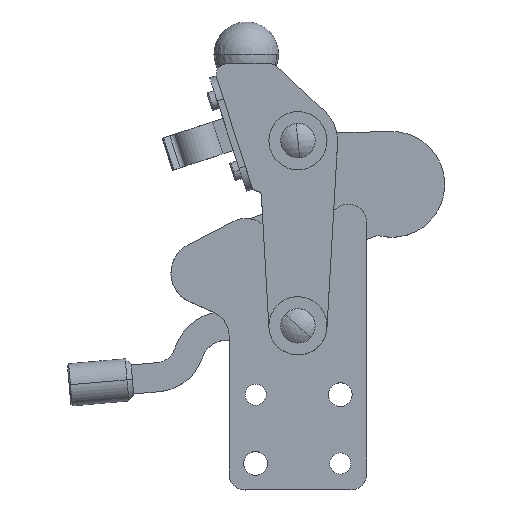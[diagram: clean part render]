
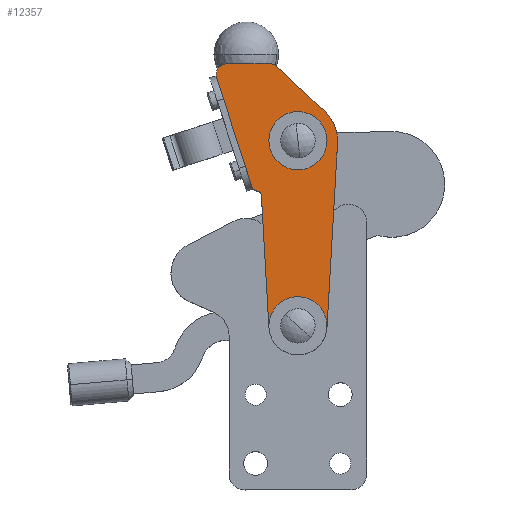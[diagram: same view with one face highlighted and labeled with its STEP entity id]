
A CAD part, top view. The second image highlights one B-rep face of the part: STEP entity #12357.
In plain terms, the highlighted planar face has unit normal (0, 0, 1).
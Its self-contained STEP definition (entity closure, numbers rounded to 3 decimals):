
#7419=CARTESIAN_POINT('',(-64.918,6.535,6.2));
#7420=VERTEX_POINT('',#7419);
#7429=CARTESIAN_POINT('',(-42.918,6.537,6.2));
#7430=VERTEX_POINT('',#7429);
#7431=CARTESIAN_POINT('',(-53.918,6.536,6.2));
#7432=DIRECTION('',(0.,0.,-1.));
#7433=DIRECTION('',(-1.,0.,0.));
#7434=AXIS2_PLACEMENT_3D('',#7431,#7432,#7433);
#7435=CIRCLE('',#7434,11.);
#7436=EDGE_CURVE('',#7430,#7420,#7435,.T.);
#7505=CARTESIAN_POINT('',(-64.893,-62.836,6.2));
#7506=VERTEX_POINT('',#7505);
#7522=CARTESIAN_POINT('',(-42.929,-64.091,6.2));
#7523=VERTEX_POINT('',#7522);
#7530=CARTESIAN_POINT('',(-53.911,-63.464,6.2));
#7531=DIRECTION('',(0.,0.,-1.));
#7532=DIRECTION('',(-0.998,-0.057,0.));
#7533=AXIS2_PLACEMENT_3D('',#7530,#7531,#7532);
#7534=CIRCLE('',#7533,11.);
#7535=EDGE_CURVE('',#7506,#7523,#7534,.T.);
#7562=CARTESIAN_POINT('',(-70.465,-12.084,6.2));
#7563=VERTEX_POINT('',#7562);
#7572=CARTESIAN_POINT('',(-71.192,-11.084,6.2));
#7573=VERTEX_POINT('',#7572);
#7574=CARTESIAN_POINT('',(-69.29,-10.465,6.2));
#7575=DIRECTION('',(0.,0.,-1.0));
#7576=DIRECTION('',(-0.588,-0.809,0.));
#7577=AXIS2_PLACEMENT_3D('',#7574,#7575,#7576);
#7578=CIRCLE('',#7577,2.);
#7579=EDGE_CURVE('',#7563,#7573,#7578,.T.);
#10272=CARTESIAN_POINT('',(-84.642,30.297,6.2));
#10273=VERTEX_POINT('',#10272);
#10274=CARTESIAN_POINT('',(-84.642,30.297,6.2));
#10275=DIRECTION('',(0.309,-0.951,0.));
#10276=VECTOR('',#10275,43.512);
#10277=LINE('',#10274,#10276);
#10278=EDGE_CURVE('',#10273,#7573,#10277,.T.);
#10294=CARTESIAN_POINT('',(-80.838,35.533,6.2));
#10295=VERTEX_POINT('',#10294);
#10296=CARTESIAN_POINT('',(-80.838,31.533,6.2));
#10297=DIRECTION('',(0.,0.,1.0));
#10298=DIRECTION('',(0.951,0.309,0.));
#10299=AXIS2_PLACEMENT_3D('',#10296,#10297,#10298);
#10300=CIRCLE('',#10299,4.0);
#10301=EDGE_CURVE('',#10295,#10273,#10300,.T.);
#11655=CARTESIAN_POINT('',(-69.505,-12.454,6.2));
#11656=VERTEX_POINT('',#11655);
#11657=CARTESIAN_POINT('',(-67.724,-14.329,6.2));
#11658=VERTEX_POINT('',#11657);
#11659=CARTESIAN_POINT('',(-69.72,-14.442,6.2));
#11660=DIRECTION('',(0.,0.,1.));
#11661=DIRECTION('',(-0.998,-0.057,0.));
#11662=AXIS2_PLACEMENT_3D('',#11659,#11660,#11661);
#11663=CIRCLE('',#11662,2.);
#11664=EDGE_CURVE('',#11656,#11658,#11663,.F.);
#11700=CARTESIAN_POINT('',(-64.893,-64.089,6.2));
#11701=VERTEX_POINT('',#11700);
#11708=CARTESIAN_POINT('',(-67.724,-14.329,6.2));
#11709=DIRECTION('',(0.057,-0.998,0.));
#11710=VECTOR('',#11709,49.84);
#11711=LINE('',#11708,#11710);
#11712=EDGE_CURVE('',#11658,#11701,#11711,.T.);
#11729=CARTESIAN_POINT('',(-69.29,-10.465,6.2));
#11730=DIRECTION('',(0.,0.,-1.0));
#11731=DIRECTION('',(-0.588,-0.809,0.));
#11732=AXIS2_PLACEMENT_3D('',#11729,#11730,#11731);
#11733=CIRCLE('',#11732,2.);
#11734=EDGE_CURVE('',#11656,#7563,#11733,.T.);
#11876=CARTESIAN_POINT('',(-38.942,5.68,6.2));
#11877=VERTEX_POINT('',#11876);
#11884=CARTESIAN_POINT('',(-42.929,-64.091,6.2));
#11885=DIRECTION('',(0.057,0.998,0.));
#11886=VECTOR('',#11885,69.886);
#11887=LINE('',#11884,#11886);
#11888=EDGE_CURVE('',#7523,#11877,#11887,.T.);
#12133=CARTESIAN_POINT('',(-61.973,34.719,6.2));
#12134=VERTEX_POINT('',#12133);
#12141=CARTESIAN_POINT('',(-43.636,17.458,6.2));
#12142=VERTEX_POINT('',#12141);
#12143=CARTESIAN_POINT('',(-43.636,17.458,6.2));
#12144=DIRECTION('',(-0.728,0.685,0.));
#12145=VECTOR('',#12144,25.183);
#12146=LINE('',#12143,#12145);
#12147=EDGE_CURVE('',#12142,#12134,#12146,.T.);
#12187=CARTESIAN_POINT('',(-53.918,6.536,6.2));
#12188=DIRECTION('',(0.,0.,1.0));
#12189=DIRECTION('',(-0.685,-0.728,0.));
#12190=AXIS2_PLACEMENT_3D('',#12187,#12188,#12189);
#12191=CIRCLE('',#12190,15.);
#12192=EDGE_CURVE('',#11877,#12142,#12191,.T.);
#12216=CARTESIAN_POINT('',(-53.911,-63.464,6.2));
#12217=DIRECTION('',(0.,0.,-1.));
#12218=DIRECTION('',(-0.998,-0.057,0.));
#12219=AXIS2_PLACEMENT_3D('',#12216,#12217,#12218);
#12220=CIRCLE('',#12219,11.);
#12221=EDGE_CURVE('',#11701,#7506,#12220,.T.);
#12295=CARTESIAN_POINT('',(-53.918,6.536,6.2));
#12296=DIRECTION('',(0.,0.,-1.));
#12297=DIRECTION('',(-1.,0.,0.));
#12298=AXIS2_PLACEMENT_3D('',#12295,#12296,#12297);
#12299=CIRCLE('',#12298,11.);
#12300=EDGE_CURVE('',#7420,#7430,#12299,.T.);
#12320=CARTESIAN_POINT('',(-58.405,-15.867,6.2));
#12321=DIRECTION('',(0.0,0.0,-1.0));
#12322=DIRECTION('',(-1.,0.,0.0));
#12323=AXIS2_PLACEMENT_3D('',#12320,#12321,#12322);
#12324=PLANE('',#12323);
#12325=ORIENTED_EDGE('',*,*,#11712,.T.);
#12326=ORIENTED_EDGE('',*,*,#12221,.T.);
#12327=ORIENTED_EDGE('',*,*,#7535,.T.);
#12328=ORIENTED_EDGE('',*,*,#11888,.T.);
#12329=ORIENTED_EDGE('',*,*,#12192,.T.);
#12330=ORIENTED_EDGE('',*,*,#12147,.T.);
#12331=CARTESIAN_POINT('',(-64.03,35.535,6.2));
#12332=VERTEX_POINT('',#12331);
#12333=CARTESIAN_POINT('',(-64.029,32.535,6.2));
#12334=DIRECTION('',(0.,0.,1.));
#12335=DIRECTION('',(0.,-1.,0.));
#12336=AXIS2_PLACEMENT_3D('',#12333,#12334,#12335);
#12337=CIRCLE('',#12336,3.0);
#12338=EDGE_CURVE('',#12134,#12332,#12337,.T.);
#12339=ORIENTED_EDGE('',*,*,#12338,.T.);
#12340=CARTESIAN_POINT('',(-64.03,35.535,6.2));
#12341=DIRECTION('',(-1.,0.,0.));
#12342=VECTOR('',#12341,16.808);
#12343=LINE('',#12340,#12342);
#12344=EDGE_CURVE('',#12332,#10295,#12343,.T.);
#12345=ORIENTED_EDGE('',*,*,#12344,.T.);
#12346=ORIENTED_EDGE('',*,*,#10301,.T.);
#12347=ORIENTED_EDGE('',*,*,#10278,.T.);
#12348=ORIENTED_EDGE('',*,*,#7579,.F.);
#12349=ORIENTED_EDGE('',*,*,#11734,.F.);
#12350=ORIENTED_EDGE('',*,*,#11664,.T.);
#12351=EDGE_LOOP('',(#12325,#12326,#12327,#12328,#12329,#12330,#12339,#12345,#12346,#12347,#12348,#12349,#12350));
#12352=FACE_OUTER_BOUND('',#12351,.T.);
#12353=ORIENTED_EDGE('',*,*,#7436,.T.);
#12354=ORIENTED_EDGE('',*,*,#12300,.T.);
#12355=EDGE_LOOP('',(#12353,#12354));
#12356=FACE_BOUND('',#12355,.T.);
#12357=ADVANCED_FACE('',(#12352,#12356),#12324,.F.);
